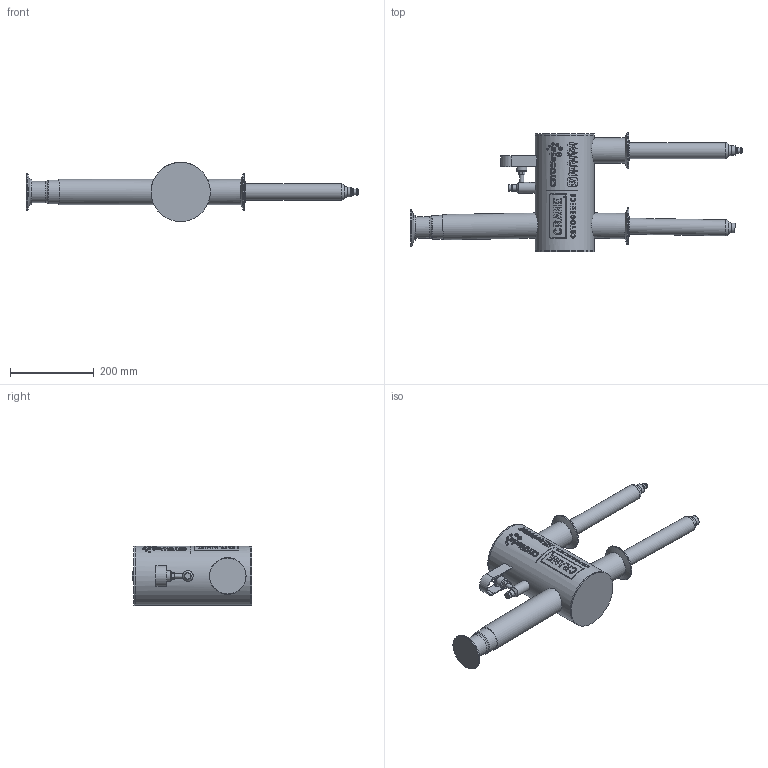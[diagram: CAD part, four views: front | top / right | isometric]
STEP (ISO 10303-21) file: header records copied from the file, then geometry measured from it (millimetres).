
FILE_DESCRIPTION (( 'STEP AP203' ), '1' );
FILE_NAME ('CA00060-TF.step', '2025-12-17T20:01:02', ( '' ), ( '' ), 'SwSTEP 2.0', 'SolidWorks 2023', '' );
FILE_SCHEMA (( 'CONFIG_CONTROL_DESIGN' ));
Length unit declared in the file: inch
Products named in the file (1): CA00060-TF
Bounding box: 792.14 x 284.95 x 141.3 mm (x, y, z)
Volume: 6358111.4 mm3; surface area: 360866.8 mm2
Topology: 1 solids, 4 shells, 708 faces, 1751 edges, 1157 vertices
Faces by surface type: plane 423, cylinder 192, bspline 53, torus 28, cone 12
Full cylindrical faces by diameter (mm): 1.494 x1, 1.636 x1, 1.778 x1, 1.935 x4, 2.039 x1, 2.302 x1, 2.967 x1, 3.071 x1, 3.409 x1, 3.632 x1, 3.807 x1, 4.009 x1, 4.573 x1, 6.177 x1, 7.201 x1, 7.63 x1, 7.722 x1, 9.232 x1, 10.16 x1, 10.236 x2, 10.287 x1, 10.319 x1, 10.749 x1, 12.7 x1, 15.748 x2, 23.012 x2, 24.638 x1, 25.4 x1, 26.873 x1, 30.988 x1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
Entity records: 29203 total; most frequent: CARTESIAN_POINT 14096, ORIENTED_EDGE 3246, DIRECTION 2666, EDGE_CURVE 1623, VERTEX_POINT 1133, AXIS2_PLACEMENT_3D 927, EDGE_LOOP 920, VECTOR 812
